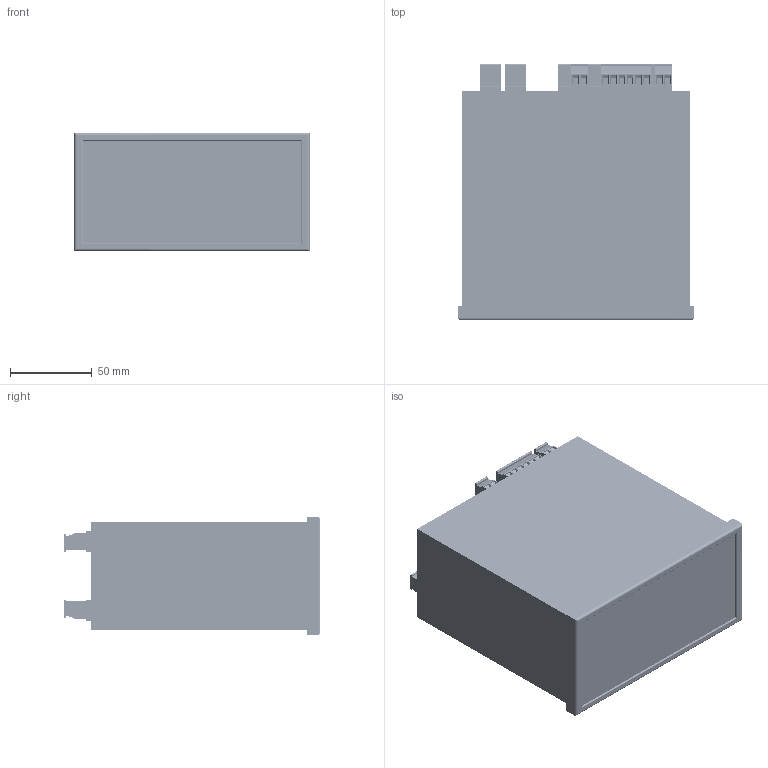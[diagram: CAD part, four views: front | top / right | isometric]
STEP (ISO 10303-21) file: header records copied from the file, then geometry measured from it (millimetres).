
FILE_DESCRIPTION (( 'STEP AP214' ), '1' );
FILE_NAME ('IRDH375-4.STEP', '2013-05-28T12:19:26', ( 'User' ), ( 'Bender' ), 'SwSTEP 2.0', 'SolidWorks 2013', '' );
FILE_SCHEMA (( 'AUTOMOTIVE_DESIGN' ));
Length unit declared in the file: millimetre
Products named in the file (24): A370193; Apra_445-263; l102906; XS202; XK202; XK204; XK205; XK206; XK201; XK203; S1; l102807; Apra_445-263_Rueckwand; XK6.; A370181; XK1.; A370189; A370179; A370175; IRDH375-4; A370191; A370195
Assembly tree (29 placements, depth 3):
  IRDH375-4
    l102807
      l102807
      XK1.  x5
      XK6.
    l102906
      l102906
      S1
      XK203
      XK201
      XK206
      XK205
      XK204
      XK202
      XS202  x2
    Apra_445-263
    A370193  x2
    A370195
    A370191
    A370175
    A370179
    A370189
    A370181
    Apra_445-263_Rueckwand
Bounding box: 144 x 156.83 x 72 mm (x, y, z)
Volume: 261427.8 mm3; surface area: 253878.2 mm2
Topology: 17 solids, 47 shells, 6866 faces, 18504 edges, 12096 vertices
Faces by surface type: plane 4140, cylinder 2685, cone 41
Entity records: 200244 total; most frequent: DIRECTION 30421, CARTESIAN_POINT 29902, ORIENTED_EDGE 29224, EDGE_CURVE 14612, AXIS2_PLACEMENT_3D 10506, VERTEX_POINT 9565, VECTOR 9409, LINE 9409
